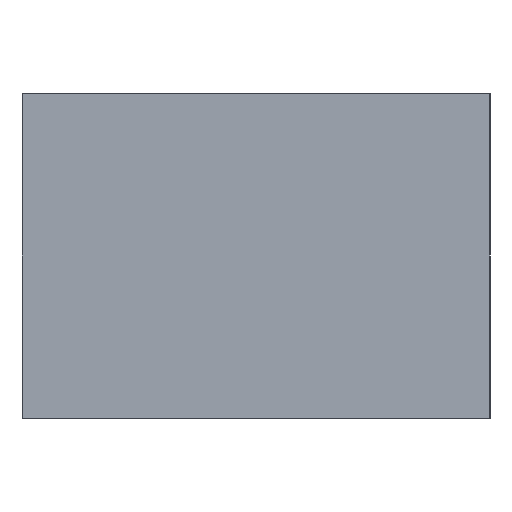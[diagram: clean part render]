
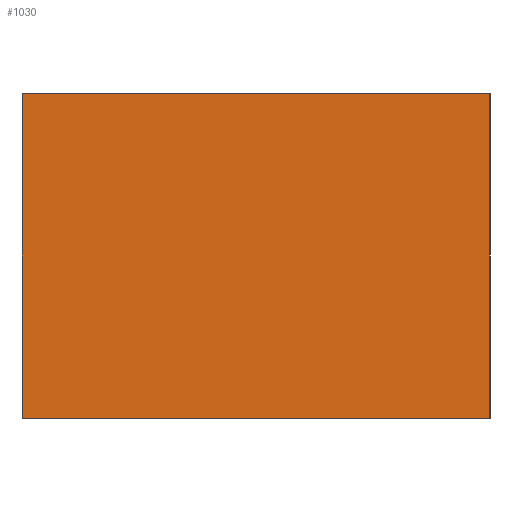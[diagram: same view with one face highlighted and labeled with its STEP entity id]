
A CAD part, left-side view. The second image highlights one B-rep face of the part: STEP entity #1030.
In plain terms, the highlighted planar face has unit normal (-1, 0, 0).
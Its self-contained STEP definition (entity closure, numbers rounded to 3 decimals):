
#207 = EDGE_CURVE ( 'NONE', #227, #4895, #3792, .T. ) ;
#227 = VERTEX_POINT ( 'NONE', #3652 ) ;
#309 = VECTOR ( 'NONE', #3012, 1000. ) ;
#458 = CARTESIAN_POINT ( 'NONE',  ( -266., -35.5, 0. ) ) ;
#490 = LINE ( 'NONE', #4155, #309 ) ;
#649 = DIRECTION ( 'NONE',  ( 1., 0., 0. ) ) ;
#673 = ORIENTED_EDGE ( 'NONE', *, *, #1861, .T. ) ;
#811 = ORIENTED_EDGE ( 'NONE', *, *, #3188, .F. ) ;
#945 = DIRECTION ( 'NONE',  ( 0., 0., -1. ) ) ;
#1030 = ADVANCED_FACE ( 'NONE', ( #1670 ), #1441, .F. ) ;
#1272 = LINE ( 'NONE', #1364, #1805 ) ;
#1288 = CARTESIAN_POINT ( 'NONE',  ( -266., -35.5, 49.3 ) ) ;
#1364 = CARTESIAN_POINT ( 'NONE',  ( -266., -35.5, 49.3 ) ) ;
#1441 = PLANE ( 'NONE',  #4575 ) ;
#1615 = VERTEX_POINT ( 'NONE', #1288 ) ;
#1670 = FACE_OUTER_BOUND ( 'NONE', #2141, .T. ) ;
#1805 = VECTOR ( 'NONE', #945, 1000. ) ;
#1861 = EDGE_CURVE ( 'NONE', #3100, #227, #3408, .T. ) ;
#2141 = EDGE_LOOP ( 'NONE', ( #2448, #811, #3350, #673 ) ) ;
#2177 = VECTOR ( 'NONE', #2898, 1000. ) ;
#2244 = CARTESIAN_POINT ( 'NONE',  ( -266., 35.5, 49.3 ) ) ;
#2448 = ORIENTED_EDGE ( 'NONE', *, *, #207, .T. ) ;
#2898 = DIRECTION ( 'NONE',  ( 0., -1., 0. ) ) ;
#3012 = DIRECTION ( 'NONE',  ( 0., -1., 0. ) ) ;
#3048 = DIRECTION ( 'NONE',  ( 0., 0., -1. ) ) ;
#3100 = VERTEX_POINT ( 'NONE', #4234 ) ;
#3188 = EDGE_CURVE ( 'NONE', #1615, #4895, #1272, .T. ) ;
#3350 = ORIENTED_EDGE ( 'NONE', *, *, #3744, .F. ) ;
#3360 = DIRECTION ( 'NONE',  ( 0., 0., -1. ) ) ;
#3408 = LINE ( 'NONE', #2244, #5095 ) ;
#3652 = CARTESIAN_POINT ( 'NONE',  ( -266., 35.5, 0. ) ) ;
#3744 = EDGE_CURVE ( 'NONE', #3100, #1615, #490, .T. ) ;
#3762 = CARTESIAN_POINT ( 'NONE',  ( -266., 35.5, 49.3 ) ) ;
#3792 = LINE ( 'NONE', #4885, #2177 ) ;
#4155 = CARTESIAN_POINT ( 'NONE',  ( -266., 35.5, 49.3 ) ) ;
#4234 = CARTESIAN_POINT ( 'NONE',  ( -266., 35.5, 49.3 ) ) ;
#4575 = AXIS2_PLACEMENT_3D ( 'NONE', #3762, #649, #3360 ) ;
#4885 = CARTESIAN_POINT ( 'NONE',  ( -266., 35.5, 0. ) ) ;
#4895 = VERTEX_POINT ( 'NONE', #458 ) ;
#5095 = VECTOR ( 'NONE', #3048, 1000. ) ;
